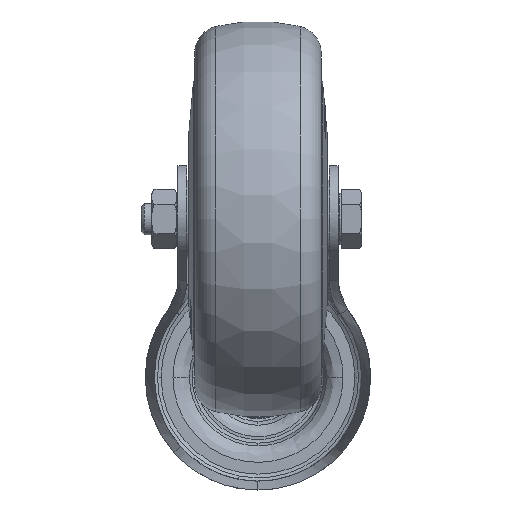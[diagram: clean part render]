
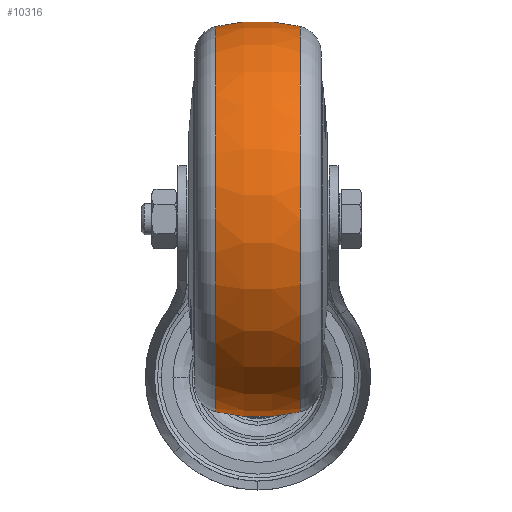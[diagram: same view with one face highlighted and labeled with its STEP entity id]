
A CAD part, front view. The second image highlights one B-rep face of the part: STEP entity #10316.
In plain terms, the highlighted toroidal (fillet/blend) face has major radius 5 mm and minor radius 45 mm.
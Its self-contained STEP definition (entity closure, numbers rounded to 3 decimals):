
#2319 = CARTESIAN_POINT ( 'NONE',  ( 10.658, 0., 0. ) ) ;
#2326 = DIRECTION ( 'NONE',  ( -1., 0., 0. ) ) ;
#2327 = DIRECTION ( 'NONE',  ( 0., 0., 1. ) ) ;
#2347 = CARTESIAN_POINT ( 'NONE',  ( -10.658, 0., 0. ) ) ;
#2360 = DIRECTION ( 'NONE',  ( -1., 0., 0. ) ) ;
#2361 = DIRECTION ( 'NONE',  ( 0., 0., 1. ) ) ;
#3272 = EDGE_LOOP ( 'NONE', ( #59972, #59971, #59970, #59969 ) ) ;
#6255 = CIRCLE ( 'NONE', #27884, 48.72 ) ;
#6294 = CIRCLE ( 'NONE', #27893, 48.72 ) ;
#10316 = ADVANCED_FACE ( 'NONE', ( #28124 ), #28138, .T. ) ;
#19899 = VERTEX_POINT ( 'NONE', #26479 ) ;
#19919 = VERTEX_POINT ( 'NONE', #26488 ) ;
#21810 = CARTESIAN_POINT ( 'NONE',  ( 0., 0., 5. ) ) ;
#21823 = CARTESIAN_POINT ( 'NONE',  ( 0., 0., -5. ) ) ;
#21824 = DIRECTION ( 'NONE',  ( 0., 1., 0. ) ) ;
#21825 = DIRECTION ( 'NONE',  ( 0., 0., 1. ) ) ;
#21830 = DIRECTION ( 'NONE',  ( 0., -1., 0. ) ) ;
#21831 = DIRECTION ( 'NONE',  ( 0., 0., -1. ) ) ;
#22703 = DIRECTION ( 'NONE',  ( -1., 0., 0. ) ) ;
#22705 = CARTESIAN_POINT ( 'NONE',  ( 0., 0., 0. ) ) ;
#22714 = DIRECTION ( 'NONE',  ( 0., 0., 1. ) ) ;
#24389 = CIRCLE ( 'NONE', #27639, 45. ) ;
#24391 = CIRCLE ( 'NONE', #27644, 45. ) ;
#26007 = VERTEX_POINT ( 'NONE', #26540 ) ;
#26059 = VERTEX_POINT ( 'NONE', #26556 ) ;
#26479 = CARTESIAN_POINT ( 'NONE',  ( -10.658, 0., -48.72 ) ) ;
#26488 = CARTESIAN_POINT ( 'NONE',  ( 10.658, 0., 48.72 ) ) ;
#26540 = CARTESIAN_POINT ( 'NONE',  ( 10.658, 0., -48.72 ) ) ;
#26556 = CARTESIAN_POINT ( 'NONE',  ( -10.658, 0., 48.72 ) ) ;
#27639 = AXIS2_PLACEMENT_3D ( 'NONE', #21823, #21824, #21825 ) ;
#27644 = AXIS2_PLACEMENT_3D ( 'NONE', #21810, #21830, #21831 ) ;
#27884 = AXIS2_PLACEMENT_3D ( 'NONE', #2319, #2326, #2327 ) ;
#27893 = AXIS2_PLACEMENT_3D ( 'NONE', #2347, #2360, #2361 ) ;
#28124 = FACE_OUTER_BOUND ( 'NONE', #3272, .T. ) ;
#28138 = TOROIDAL_SURFACE ( 'NONE', #45334, 5., 45. ) ;
#45334 = AXIS2_PLACEMENT_3D ( 'NONE', #22705, #22703, #22714 ) ;
#49064 = EDGE_CURVE ( 'NONE', #26007, #19899, #24389, .T. ) ;
#49071 = EDGE_CURVE ( 'NONE', #19919, #26059, #24391, .T. ) ;
#59969 = ORIENTED_EDGE ( 'NONE', *, *, #61036, .F. ) ;
#59970 = ORIENTED_EDGE ( 'NONE', *, *, #49071, .T. ) ;
#59971 = ORIENTED_EDGE ( 'NONE', *, *, #61024, .T. ) ;
#59972 = ORIENTED_EDGE ( 'NONE', *, *, #49064, .F. ) ;
#61024 = EDGE_CURVE ( 'NONE', #26007, #19919, #6255, .T. ) ;
#61036 = EDGE_CURVE ( 'NONE', #19899, #26059, #6294, .T. ) ;
